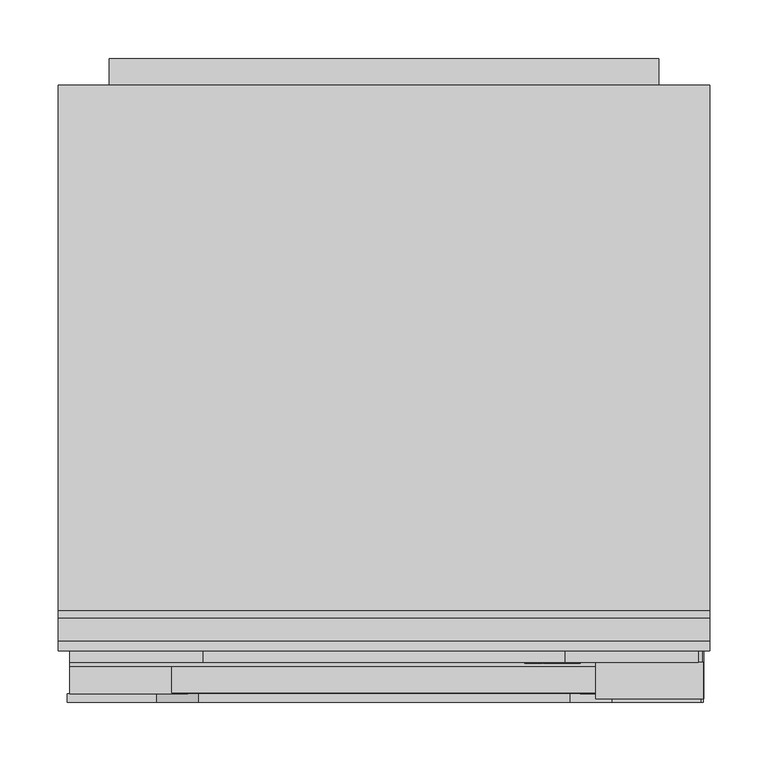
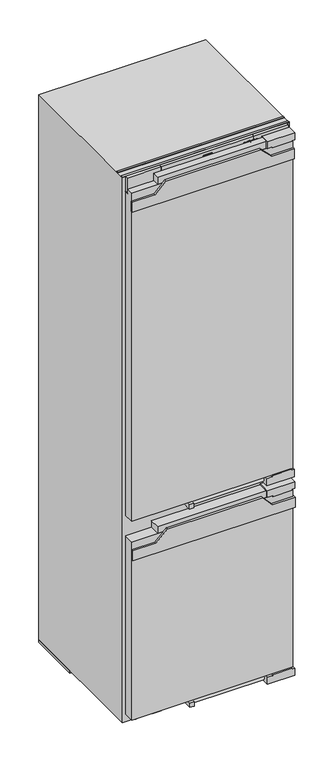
"""IFC4 building model written with IfcOpenShell, lengths in millimetres: proxy geometry, 12665240_EU1_KFN7844C : 38784400_EU1_12665240_KFN7844C."""

from ifc_helpers import new_model, si_unit, point, frame, frame_2d, origin, origin_with_axes, place, context, project, spatial, polyline, circle_curve, ellipse_curve, trimmed, segment, composite_curve, outline, extrude, faceted_brep, source, transform, mapped, element, save
from ifc_brep_helpers import plane_surface, cylinder_surface, revolved_surface, extruded_surface, advanced_brep


def specialty_equipment_554c32f7(model_context):
    return source(origin(), model_context, "Body", "SolidModel", [
        advanced_brep(
        [(162.7818, 33.0, 1920.3478), (162.7818, 33.0, 1921.1356), (168.0, 33.0, 1921.1356), (158.9208, 33.0, 1921.1356), (161.0658, 33.0, 1918.4992), (167.8674, 33.0, 1920.3478), (165.5118, 33.0, 1920.3478), (163.6554, 33.0, 1919.4742), (162.7818, 33.0, 1922.134), (162.7818, 33.0, 1922.9842), (164.1156, 33.0, 1922.9842), (164.1156, 33.0, 1922.134), (162.7818, 34.0, 1920.3478), (163.6554, 34.0, 1919.4742), (165.5118, 34.0, 1920.3478), (167.8674, 34.0, 1920.3478), (161.0658, 34.0, 1918.4992), (158.9208, 34.0, 1921.1356), (168.0, 34.0, 1921.1356), (162.7818, 34.0, 1921.1356), (162.7818, 34.0, 1922.134), (164.1156, 34.0, 1922.134), (164.1156, 34.0, 1922.9842), (162.7818, 34.0, 1922.9842)],
        [
            (0, 1),
            (1, 2),
            (2, 3, ellipse_curve(frame((163.4604, 33.0, 1921.1356), z_axis=(0.0, -1.0, 0.0), x_axis=(-1.0, 0.0, 0.0)), 4.5396, 3.7518)),
            (3, 4, circle_curve(frame((161.9394425, 33.0, 1921.4008), z_axis=(0.0, -1.0, 0.0), x_axis=(0.0, 0.0, -1.0)), 3.0302696)),
            (4, 5, circle_curve(frame((163.3695237, 33.0, 1923.46), z_axis=(0.0, -1.0, 0.0), x_axis=(0.0, 0.0, -1.0)), 5.4696142)),
            (5, 6),
            (6, 7, circle_curve(frame((164.0366824, 33.0, 1921.0732), z_axis=(0.0, 1.0, 0.0), x_axis=(0.0, 0.0, -1.0)), 1.64383)),
            (7, 0, circle_curve(frame((163.6554, 33.0, 1920.3478), z_axis=(0.0, 1.0, 0.0), x_axis=(0.0, 0.0, -1.0)), 0.8736)),
            (8, 9),
            (9, 10, circle_curve(frame((163.4487, 33.0, 1922.9842), z_axis=(0.0, 1.0, 0.0), x_axis=(0.0, 0.0, -1.0)), 0.6669)),
            (10, 11),
            (11, 8),
            (12, 13, circle_curve(frame((163.6554, 34.0, 1920.3478), z_axis=(0.0, -1.0, 0.0), x_axis=(0.0, 0.0, -1.0)), 0.8736)),
            (13, 14, circle_curve(frame((164.0366824, 34.0, 1921.0732), z_axis=(0.0, -1.0, 0.0), x_axis=(0.0, 0.0, -1.0)), 1.64383)),
            (14, 15),
            (15, 16, circle_curve(frame((163.3695237, 34.0, 1923.46), z_axis=(0.0, 1.0, 0.0), x_axis=(0.0, 0.0, -1.0)), 5.4696142)),
            (16, 17, circle_curve(frame((161.9394425, 34.0, 1921.4008), z_axis=(0.0, 1.0, 0.0), x_axis=(0.0, 0.0, -1.0)), 3.0302696)),
            (17, 18, ellipse_curve(frame((163.4604, 34.0, 1921.1356), z_axis=(0.0, 1.0, 0.0), x_axis=(-1.0, 0.0, 0.0)), 4.5396, 3.7518)),
            (18, 19),
            (19, 12),
            (20, 21),
            (21, 22),
            (22, 23, circle_curve(frame((163.4487, 34.0, 1922.9842), z_axis=(0.0, -1.0, 0.0), x_axis=(0.0, 0.0, -1.0)), 0.6669)),
            (23, 20),
            (0, 12),
            (19, 1),
            (18, 2),
            (5, 15),
            (14, 6),
            (17, 3),
            (13, 7),
            (16, 4),
            (8, 20),
            (23, 9),
            (22, 10),
            (21, 11),
        ],
        [
            plane_surface(frame((162.7818, 33.0, 1921.1356), z_axis=(0.0, -1.0, 0.0), x_axis=(0.0, 0.0, 1.0))),
            plane_surface(frame((162.7818, 34.0, 1921.1356), z_axis=(0.0, 1.0, 0.0), x_axis=(0.0, 0.0, -1.0))),
            plane_surface(frame((162.7818, 33.0, 1920.3478), z_axis=(1.0, 0.0, 0.0), x_axis=(0.0, 1.0, 0.0))),
            plane_surface(frame((162.7818, 33.0, 1921.1356), z_axis=(0.0, 0.0, -1.0), x_axis=(0.0, 1.0, 0.0))),
            plane_surface(frame((167.8674, 33.0, 1920.3478), z_axis=(0.0, 0.0, 1.0), x_axis=(0.0, 1.0, 0.0))),
            extruded_surface(trimmed(ellipse_curve(frame((163.4604, 35.0, 1921.1356), z_axis=(0.0, -1.0, 0.0), x_axis=(-1.0, 0.0, 0.0)), 4.5396, 3.7518), [point((168.0, 35.0, 1921.1356))], [point((158.9208, 35.0, 1921.1356))], True, "CARTESIAN"), (0.0, -1.0, 0.0), 1.0),
            revolved_surface(polyline([(164.0366824, 34.0, 1919.42937), (164.0366824, 33.0, 1919.42937)]), (164.0366824, 34.0, 1921.0732), (0.0, 1.0, 0.0)),
            revolved_surface(polyline([(163.6554, 34.0, 1919.4742), (163.6554, 33.0, 1919.4742)]), (163.6554, 34.0, 1920.3478), (0.0, 1.0, 0.0)),
            cylinder_surface(frame((161.9394425, 34.0, 1921.4008), z_axis=(0.0, -1.0, 0.0), x_axis=(0.0, 0.0, -1.0)), 3.0302696),
            cylinder_surface(frame((163.3695237, 34.0, 1923.46), z_axis=(0.0, -1.0, 0.0), x_axis=(0.0, 0.0, -1.0)), 5.4696142),
            plane_surface(frame((162.7818, 33.0, 1922.134), z_axis=(1.0, 0.0, 0.0), x_axis=(0.0, 1.0, 0.0))),
            revolved_surface(polyline([(163.4487, 34.0, 1922.3173000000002), (163.4487, 33.0, 1922.3173000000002)]), (163.4487, 34.0, 1922.9842), (0.0, 1.0, 0.0)),
            plane_surface(frame((164.1156, 33.0, 1922.9842), z_axis=(-1.0, 0.0, 0.0), x_axis=(0.0, 1.0, 0.0))),
            plane_surface(frame((164.1156, 33.0, 1922.134), z_axis=(0.0, 0.0, 1.0), x_axis=(0.0, 1.0, 0.0))),
        ],
        [
            (0, [[1, 2, 3, 4, 5, 6, 7, 8], [9, 10, 11, 12]]),
            (1, [[13, 14, 15, 16, 17, 18, 19, 20], [21, 22, 23, 24]]),
            (2, [[-1, 25, -20, 26]]),
            (3, [[-2, -26, -19, 27]]),
            (4, [[-6, 28, -15, 29]]),
            (5, [[-3, -27, -18, 30]]),
            (6, [[-7, -29, -14, 31]]),
            (7, [[-8, -31, -13, -25]]),
            (8, [[-4, -30, -17, 32]]),
            (9, [[-5, -32, -16, -28]]),
            (10, [[-9, 33, -24, 34]]),
            (11, [[-10, -34, -23, 35]]),
            (12, [[-11, -35, -22, 36]]),
            (13, [[-12, -36, -21, -33]]),
        ],
    ),
        advanced_brep(
        [(146.5032, 33.0, 1920.3478), (146.5032, 33.0, 1921.1356), (151.7214, 33.0, 1921.1356), (142.6422, 33.0, 1921.1356), (144.7872, 33.0, 1918.4992), (151.5888, 33.0, 1920.3478), (149.2332, 33.0, 1920.3478), (147.3768, 33.0, 1919.4742), (146.5032, 33.0, 1922.134), (146.5032, 33.0, 1922.9842), (147.837, 33.0, 1922.9842), (147.837, 33.0, 1922.134), (146.5032, 34.0, 1920.3478), (147.3768, 34.0, 1919.4742), (149.2332, 34.0, 1920.3478), (151.5888, 34.0, 1920.3478), (144.7872, 34.0, 1918.4992), (142.6422, 34.0, 1921.1356), (151.7214, 34.0, 1921.1356), (146.5032, 34.0, 1921.1356), (146.5032, 34.0, 1922.134), (147.837, 34.0, 1922.134), (147.837, 34.0, 1922.9842), (146.5032, 34.0, 1922.9842)],
        [
            (0, 1),
            (1, 2),
            (2, 3, ellipse_curve(frame((147.1818, 33.0, 1921.1356), z_axis=(0.0, -1.0, 0.0), x_axis=(-1.0, 0.0, 0.0)), 4.5396, 3.7518)),
            (3, 4, circle_curve(frame((145.6608425, 33.0, 1921.4008), z_axis=(0.0, -1.0, 0.0), x_axis=(0.0, 0.0, -1.0)), 3.0302696)),
            (4, 5, circle_curve(frame((147.0909237, 33.0, 1923.46), z_axis=(0.0, -1.0, 0.0), x_axis=(0.0, 0.0, -1.0)), 5.4696142)),
            (5, 6),
            (6, 7, circle_curve(frame((147.7580824, 33.0, 1921.0732), z_axis=(0.0, 1.0, 0.0), x_axis=(0.0, 0.0, -1.0)), 1.64383)),
            (7, 0, circle_curve(frame((147.3768, 33.0, 1920.3478), z_axis=(0.0, 1.0, 0.0), x_axis=(0.0, 0.0, -1.0)), 0.8736)),
            (8, 9),
            (9, 10, circle_curve(frame((147.1701, 33.0, 1922.9842), z_axis=(0.0, 1.0, 0.0), x_axis=(0.0, 0.0, -1.0)), 0.6669)),
            (10, 11),
            (11, 8),
            (12, 13, circle_curve(frame((147.3768, 34.0, 1920.3478), z_axis=(0.0, -1.0, 0.0), x_axis=(0.0, 0.0, -1.0)), 0.8736)),
            (13, 14, circle_curve(frame((147.7580824, 34.0, 1921.0732), z_axis=(0.0, -1.0, 0.0), x_axis=(0.0, 0.0, -1.0)), 1.64383)),
            (14, 15),
            (15, 16, circle_curve(frame((147.0909237, 34.0, 1923.46), z_axis=(0.0, 1.0, 0.0), x_axis=(0.0, 0.0, -1.0)), 5.4696142)),
            (16, 17, circle_curve(frame((145.6608425, 34.0, 1921.4008), z_axis=(0.0, 1.0, 0.0), x_axis=(0.0, 0.0, -1.0)), 3.0302696)),
            (17, 18, ellipse_curve(frame((147.1818, 34.0, 1921.1356), z_axis=(0.0, 1.0, 0.0), x_axis=(-1.0, 0.0, 0.0)), 4.5396, 3.7518)),
            (18, 19),
            (19, 12),
            (20, 21),
            (21, 22),
            (22, 23, circle_curve(frame((147.1701, 34.0, 1922.9842), z_axis=(0.0, -1.0, 0.0), x_axis=(0.0, 0.0, -1.0)), 0.6669)),
            (23, 20),
            (0, 12),
            (19, 1),
            (18, 2),
            (5, 15),
            (14, 6),
            (17, 3),
            (13, 7),
            (16, 4),
            (8, 20),
            (23, 9),
            (22, 10),
            (21, 11),
        ],
        [
            plane_surface(frame((146.5032, 33.0, 1921.1356), z_axis=(0.0, -1.0, 0.0), x_axis=(0.0, 0.0, 1.0))),
            plane_surface(frame((146.5032, 34.0, 1921.1356), z_axis=(0.0, 1.0, 0.0), x_axis=(0.0, 0.0, -1.0))),
            plane_surface(frame((146.5032, 33.0, 1920.3478), z_axis=(1.0, 0.0, 0.0), x_axis=(0.0, 1.0, 0.0))),
            plane_surface(frame((146.5032, 33.0, 1921.1356), z_axis=(0.0, 0.0, -1.0), x_axis=(0.0, 1.0, 0.0))),
            plane_surface(frame((151.5888, 33.0, 1920.3478), z_axis=(0.0, 0.0, 1.0), x_axis=(0.0, 1.0, 0.0))),
            extruded_surface(trimmed(ellipse_curve(frame((147.1818, 35.0, 1921.1356), z_axis=(0.0, -1.0, 0.0), x_axis=(-1.0, 0.0, 0.0)), 4.5396, 3.7518), [point((151.7214, 35.0, 1921.1356))], [point((142.6422, 35.0, 1921.1356))], True, "CARTESIAN"), (0.0, -1.0, 0.0), 1.0),
            revolved_surface(polyline([(147.7580824, 34.0, 1919.42937), (147.7580824, 33.0, 1919.42937)]), (147.7580824, 34.0, 1921.0732), (0.0, 1.0, 0.0)),
            revolved_surface(polyline([(147.3768, 34.0, 1919.4742), (147.3768, 33.0, 1919.4742)]), (147.3768, 34.0, 1920.3478), (0.0, 1.0, 0.0)),
            cylinder_surface(frame((145.6608425, 34.0, 1921.4008), z_axis=(0.0, -1.0, 0.0), x_axis=(0.0, 0.0, -1.0)), 3.0302696),
            cylinder_surface(frame((147.0909237, 34.0, 1923.46), z_axis=(0.0, -1.0, 0.0), x_axis=(0.0, 0.0, -1.0)), 5.4696142),
            plane_surface(frame((146.5032, 33.0, 1922.134), z_axis=(1.0, 0.0, 0.0), x_axis=(0.0, 1.0, 0.0))),
            revolved_surface(polyline([(147.1701, 34.0, 1922.3173000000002), (147.1701, 33.0, 1922.3173000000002)]), (147.1701, 34.0, 1922.9842), (0.0, 1.0, 0.0)),
            plane_surface(frame((147.837, 33.0, 1922.9842), z_axis=(-1.0, 0.0, 0.0), x_axis=(0.0, 1.0, 0.0))),
            plane_surface(frame((147.837, 33.0, 1922.134), z_axis=(0.0, 0.0, 1.0), x_axis=(0.0, 1.0, 0.0))),
        ],
        [
            (0, [[1, 2, 3, 4, 5, 6, 7, 8], [9, 10, 11, 12]]),
            (1, [[13, 14, 15, 16, 17, 18, 19, 20], [21, 22, 23, 24]]),
            (2, [[-1, 25, -20, 26]]),
            (3, [[-2, -26, -19, 27]]),
            (4, [[-6, 28, -15, 29]]),
            (5, [[-3, -27, -18, 30]]),
            (6, [[-7, -29, -14, 31]]),
            (7, [[-8, -31, -13, -25]]),
            (8, [[-4, -30, -17, 32]]),
            (9, [[-5, -32, -16, -28]]),
            (10, [[-9, 33, -24, 34]]),
            (11, [[-10, -34, -23, 35]]),
            (12, [[-11, -35, -22, 36]]),
            (13, [[-12, -36, -21, -33]]),
        ],
    ),
        extrude(outline(polyline([(1925.839, 137.9778), (1924.5754, 138.5706), (1925.8078, 141.2148), (1927.0714, 140.6298), (1925.839, 137.9778)])), frame((0.0, 33.0, 0.0), z_axis=(0.0, 1.0, 0.0), x_axis=(0.0, 0.0, 1.0)), (0.0, 0.0, 1.0), 1.0),
        extrude(outline(polyline([(1924.4038, 136.0512), (1923.0076, 136.0512), (1923.0076, 136.9794), (1919.8096, 136.9794), (1919.8096, 136.0512), (1918.4992, 136.0512), (1918.4992, 142.2054), (1919.8096, 142.2054), (1919.8096, 141.3006), (1924.4038, 141.3006), (1924.4038, 136.0512)])), frame((0.0, 33.0, 0.0), z_axis=(0.0, 1.0, 0.0), x_axis=(0.0, 0.0, 1.0)), (0.0, 0.0, 1.0), 1.0),
        extrude(outline(polyline([(1925.0278, 152.1582), (1925.0278, 153.0942), (1919.8096, 153.0942), (1919.8096, 152.1582), (1918.4992, 152.1582), (1918.4992, 158.484), (1919.8096, 158.484), (1919.8096, 157.5246), (1926.2992, 157.5246), (1926.2992, 152.1582), (1925.0278, 152.1582)])), frame((0.0, 33.0, 0.0), z_axis=(0.0, 1.0, 0.0), x_axis=(0.0, 0.0, 1.0)), (0.0, 0.0, 1.0), 1.0),
        extrude(outline(polyline([(1925.0278, 120.5058), (1925.0278, 121.4496), (1919.8096, 121.4496), (1919.8096, 120.5058), (1918.4992, 120.5058), (1918.4992, 123.9378), (1919.8096, 123.9378), (1919.8096, 123.0018), (1923.1289247, 123.0018), (1918.4992, 126.4884), (1923.1894223, 129.9906), (1919.8096, 129.9906), (1919.8096, 129.0312), (1918.4992, 129.0312), (1918.4992, 135.2556), (1919.8096, 135.2556), (1919.8096, 134.265), (1925.0278, 134.265), (1925.0278, 135.2556), (1926.2992, 135.2556), (1926.2992, 130.5054), (1923.3742, 128.2278), (1926.2992, 125.9424), (1926.2992, 120.5058), (1925.0278, 120.5058)])), frame((0.0, 33.0, 0.0), z_axis=(0.0, 1.0, 0.0), x_axis=(0.0, 0.0, 1.0)), (0.0, 0.0, 1.0), 1.0),
        extrude(outline(polyline([(-268.65, 44.0), (268.65, 44.0), (268.65, 7.0), (-268.65, 7.0), (-268.65, 44.0)])), frame((0.0, 0.0, 38.0), z_axis=(0.0, 0.0, 1.0), x_axis=(1.0, 0.0, 0.0)), (0.0, 0.0, 1.0), 629.0),
        extrude(outline(polyline([(1902.2953112, 263.2294749), (1902.2953112, 273.2294749), (1927.0, 273.2294749), (1927.0, 181.2294749), (1902.2953112, 181.2294749), (1902.2953112, 199.2294749), (1900.0, 199.2294749), (1900.0, 263.2294749), (1902.2953112, 263.2294749)])), frame((0.0, 3.0, 0.0), z_axis=(0.0, 1.0, 0.0), x_axis=(0.0, 0.0, 1.0)), (0.0, 0.0, 1.0), 31.0),
        extrude(outline(polyline([(693.8058281, 273.65), (693.8058281, 181.65), (669.8058281, 181.65), (669.8058281, 199.65), (666.8058281, 199.65), (666.8058281, 263.65), (669.8058281, 263.65), (669.8058281, 273.65), (693.8058281, 273.65)])), frame((0.0, 3.0, 0.0), z_axis=(0.0, 1.0, 0.0), x_axis=(0.0, 0.0, 1.0)), (0.0, 0.0, 1.0), 41.0),
        extrude(outline(polyline([(33.8058281, 199.65), (33.8058281, 181.65), (9.8058281, 181.65), (9.8058281, 273.65), (33.8058281, 273.65), (33.8058281, 263.65), (37.8058281, 263.65), (37.8058281, 199.65), (33.8058281, 199.65)])), frame((0.0, 3.0, 0.0), z_axis=(0.0, 1.0, 0.0), x_axis=(0.0, 0.0, 1.0)), (0.0, 0.0, 1.0), 41.0),
        extrude(outline(polyline([(-181.65, 44.0), (181.65, 44.0), (181.65, 8.0), (-181.65, 8.0), (-181.65, 44.0)])), frame((0.0, 0.0, 667.0), z_axis=(0.0, 0.0, 1.0), x_axis=(1.0, 0.0, 0.0)), (0.0, 0.0, 1.0), 23.0),
        extrude(outline(polyline([(7.0, 740.0), (7.0, 1900.0), (30.0, 1900.0), (30.0, 1885.0), (44.0, 1885.0), (44.0, 740.0), (7.0, 740.0)])), frame((-268.65, 0.0, 0.0), z_axis=(1.0, 0.0, 0.0), x_axis=(0.0, 1.0, 0.0)), (0.0, 0.0, 1.0), 537.3),
        extrude(outline(polyline([(181.65, 8.0), (-181.65, 8.0), (-181.65, 30.0), (181.65, 30.0), (181.65, 8.0)])), frame((0.0, 0.0, 1900.0), z_axis=(0.0, 0.0, 1.0), x_axis=(1.0, 0.0, 0.0)), (0.0, 0.0, 1.0), 26.0),
        extrude(outline(polyline([(737.0, 198.15), (737.0, 180.15), (712.0, 180.15), (712.0, 272.15), (737.0, 272.15), (737.0, 262.15), (741.0, 262.15), (741.0, 198.15), (737.0, 198.15)])), frame((0.0, 3.0, 0.0), z_axis=(0.0, 1.0, 0.0), x_axis=(0.0, 0.0, 1.0)), (0.0, 0.0, 1.0), 41.0),
        extrude(outline(polyline([(1837.0, 271.0), (1873.0, 271.0), (1873.0, 195.0), (1909.0, 159.0), (1909.0, -159.0), (1873.0, -195.0), (1873.0, -271.0), (1837.0, -271.0), (1837.0, 271.0)])), frame((0.0, 0.0, 0.0), z_axis=(0.0, 1.0, 0.0), x_axis=(0.0, 0.0, 1.0)), (0.0, 0.0, 1.0), 7.0),
        extrude(outline(polyline([(605.0, 273.15), (641.0, 273.15), (641.0, 197.15), (677.0, 164.15), (677.0, -153.85), (641.0, -192.85), (641.0, -268.85), (605.0, -268.85), (605.0, 273.15)])), frame((0.0, 0.0, 0.0), z_axis=(0.0, 1.0, 0.0), x_axis=(0.0, 0.0, 1.0)), (0.0, 0.0, 1.0), 7.0),
        extrude(outline(polyline([(-73.9870219, 42.0), (-58.9870219, 42.0), (-58.9870219, 8.0), (-73.9870219, 8.0), (-73.9870219, 42.0)])), frame((0.0, 0.0, 14.0005845), z_axis=(0.0, 0.0, 1.0), x_axis=(1.0, 0.0, 0.0)), (0.0, 0.0, 1.0), 15.0),
        extrude(outline(composite_curve([segment(trimmed(circle_curve(frame_2d((-65.4870219, 25.0)), 6.5), [point((-71.9870219, 25.0))], [point((-58.9870219, 25.0))], False, "CARTESIAN"), True, "CONTINUOUS"), segment(trimmed(circle_curve(frame_2d((-65.4870219, 25.0)), 6.5), [point((-58.9870219, 25.0))], [point((-71.9870219, 25.0))], False, "CARTESIAN"), True, "CONTINUOUS")], self_intersect=False)), frame((0.0, 0.0, 29.0005845), z_axis=(0.0, 0.0, 1.0), x_axis=(1.0, 0.0, 0.0)), (0.0, 0.0, 1.0), 9.0),
        extrude(outline(composite_curve([segment(trimmed(circle_curve(frame_2d((26.0, 23.0005845)), 9.0), [point((26.0, 14.0005845))], [point((26.0, 32.0005845))], False, "CARTESIAN"), True, "CONTINUOUS"), segment(trimmed(circle_curve(frame_2d((26.0, 23.0005845)), 9.0), [point((26.0, 32.0005845))], [point((26.0, 14.0005845))], False, "CARTESIAN"), True, "CONTINUOUS")], self_intersect=False)), frame((-58.9870219, 0.0, 0.0), z_axis=(1.0, 0.0, 0.0), x_axis=(0.0, 1.0, 0.0)), (0.0, 0.0, 1.0), 238.4870219),
        extrude(outline(polyline([(-75.4870219, 42.0), (-60.4870219, 42.0), (-60.4870219, 8.0), (-75.4870219, 8.0), (-75.4870219, 42.0)])), frame((0.0, 0.0, 715.5), z_axis=(0.0, 0.0, 1.0), x_axis=(1.0, 0.0, 0.0)), (0.0, 0.0, 1.0), 15.0),
        extrude(outline(composite_curve([segment(trimmed(circle_curve(frame_2d((-66.9870219, 25.0)), 6.5), [point((-73.4870219, 25.0))], [point((-60.4870219, 25.0))], False, "CARTESIAN"), True, "CONTINUOUS"), segment(trimmed(circle_curve(frame_2d((-66.9870219, 25.0)), 6.5), [point((-60.4870219, 25.0))], [point((-73.4870219, 25.0))], False, "CARTESIAN"), True, "CONTINUOUS")], self_intersect=False)), frame((0.0, 0.0, 730.5), z_axis=(0.0, 0.0, 1.0), x_axis=(1.0, 0.0, 0.0)), (0.0, 0.0, 1.0), 9.0),
        extrude(outline(composite_curve([segment(trimmed(circle_curve(frame_2d((26.0, 724.5)), 9.0), [point((26.0, 715.5))], [point((26.0, 733.5))], False, "CARTESIAN"), True, "CONTINUOUS"), segment(trimmed(circle_curve(frame_2d((26.0, 724.5)), 9.0), [point((26.0, 733.5))], [point((26.0, 715.5))], False, "CARTESIAN"), True, "CONTINUOUS")], self_intersect=False)), frame((-60.4870219, 0.0, 0.0), z_axis=(1.0, 0.0, 0.0), x_axis=(0.0, 1.0, 0.0)), (0.0, 0.0, 1.0), 238.4870219),
        extrude(outline(polyline([(-15.0, 35.0), (15.0, 35.0), (15.0, 34.0), (-15.0, 34.0), (-15.0, 35.0)])), frame((0.0, 0.0, 1898.0), z_axis=(0.0, 0.0, 1.0), x_axis=(1.0, 0.0, 0.0)), (0.0, 0.0, 1.0), 30.0),
        extrude(outline(polyline([(-269.0, 44.0), (-155.0, 44.0), (-155.0, 34.0), (-269.0, 34.0), (-269.0, 44.0)])), frame((0.0, 0.0, 1888.0), z_axis=(0.0, 0.0, 1.0), x_axis=(1.0, 0.0, 0.0)), (0.0, 0.0, 1.0), 49.0),
        extrude(outline(polyline([(155.0, 44.0), (269.0, 44.0), (269.0, 34.0), (155.0, 34.0), (155.0, 44.0)])), frame((0.0, 0.0, 1888.0), z_axis=(0.0, 0.0, 1.0), x_axis=(1.0, 0.0, 0.0)), (0.0, 0.0, 1.0), 49.0),
        faceted_brep([(155.0, 34.0, 1937.0), (-155.0, 34.0, 1937.0), (-155.0, 34.0, 1888.0), (155.0, 34.0, 1888.0), (15.0, 34.0, 1928.0), (15.0, 34.0, 1898.0), (-15.0, 34.0, 1898.0), (-15.0, 34.0, 1928.0), (155.0, 44.0, 1937.0), (155.0, 44.0, 1888.0), (-155.0, 44.0, 1888.0), (-155.0, 44.0, 1937.0), (15.0, 35.0, 1928.0), (-15.0, 35.0, 1928.0), (-15.0, 35.0, 1898.0), (15.0, 35.0, 1898.0)], [[[0, 1, 2, 3], [4, 5, 6, 7]], [[8, 9, 10, 11]], [[0, 3, 9, 8]], [[3, 2, 10, 9]], [[2, 1, 11, 10]], [[1, 0, 8, 11]], [[12, 13, 14, 15]], [[12, 15, 5, 4]], [[15, 14, 6, 5]], [[14, 13, 7, 6]], [[13, 12, 4, 7]]]),
        faceted_brep([(278.5, 528.0, 1935.0), (-278.5, 528.0, 1935.0), (-278.5, 44.0, 1935.0), (278.5, 44.0, 1935.0), (278.5, 528.0, 10.0), (278.5, 44.0, 10.0), (-278.5, 44.0, 10.0), (-278.5, 528.0, 10.0), (242.5, 44.0, 1860.0), (242.5, 44.0, 765.0), (-242.5, 44.0, 765.0), (-242.5, 44.0, 1860.0), (217.5, 44.0, 633.0), (217.5, 44.0, 93.0), (-217.5, 44.0, 93.0), (-217.5, 44.0, 633.0), (242.5, 490.0, 1860.0), (-242.5, 490.0, 1860.0), (-242.5, 490.0, 765.0), (242.5, 490.0, 765.0), (217.5, 451.0, 633.0), (217.5, 451.0, 93.0), (-217.5, 451.0, 633.0), (-217.5, 451.0, 93.0)], [[[0, 1, 2, 3]], [[4, 5, 6, 7]], [[1, 0, 4, 7]], [[2, 1, 7, 6]], [[3, 2, 6, 5], [8, 9, 10, 11], [12, 13, 14, 15]], [[0, 3, 5, 4]], [[16, 17, 18, 19]], [[16, 19, 9, 8]], [[19, 18, 10, 9]], [[18, 17, 11, 10]], [[17, 16, 8, 11]], [[20, 21, 13, 12]], [[22, 15, 14, 23]], [[21, 20, 22, 23]], [[13, 21, 23, 14]], [[20, 12, 15, 22]]]),
        extrude(outline(composite_curve([segment(trimmed(circle_curve(frame_2d((228.0, 64.0)), 11.0), [point((239.0, 64.0))], [point((217.0, 64.0))], False, "CARTESIAN"), True, "CONTINUOUS"), segment(trimmed(circle_curve(frame_2d((228.0, 64.0)), 11.0), [point((217.0, 64.0))], [point((239.0, 64.0))], False, "CARTESIAN"), True, "CONTINUOUS")], self_intersect=False)), origin_with_axes(), (0.0, 0.0, 1.0), 10.0),
        extrude(outline(composite_curve([segment(trimmed(circle_curve(frame_2d((-228.0, 64.0)), 11.0), [point((-217.0, 64.0))], [point((-239.0, 64.0))], False, "CARTESIAN"), True, "CONTINUOUS"), segment(trimmed(circle_curve(frame_2d((-228.0, 64.0)), 11.0), [point((-239.0, 64.0))], [point((-217.0, 64.0))], False, "CARTESIAN"), True, "CONTINUOUS")], self_intersect=False)), origin_with_axes(), (0.0, 0.0, 1.0), 10.0),
        extrude(outline(polyline([(-217.5, 350.0), (-217.5, 451.0), (217.5, 451.0), (217.5, 350.0), (-217.5, 350.0)])), frame((0.0, 0.0, 93.0), z_axis=(0.0, 0.0, 1.0), x_axis=(1.0, 0.0, 0.0)), (0.0, 0.0, 1.0), 140.0),
        extrude(outline(polyline([(-242.5, 44.0), (-242.5, 490.0), (242.5, 490.0), (242.5, 44.0), (-242.5, 44.0)])), frame((0.0, 0.0, 1142.0), z_axis=(0.0, 0.0, 1.0), x_axis=(1.0, 0.0, 0.0)), (0.0, 0.0, 1.0), 3.0),
        extrude(outline(polyline([(278.5, 52.0), (278.5, 44.0), (-278.5, 44.0), (-278.5, 52.0), (278.5, 52.0)])), frame((0.0, 0.0, 1935.0), z_axis=(0.0, 0.0, 1.0), x_axis=(1.0, 0.0, 0.0)), (0.0, 0.0, 1.0), 3.0),
        extrude(outline(polyline([(278.5, 78.0), (278.5, 72.0), (-278.5, 72.0), (-278.5, 78.0), (278.5, 78.0)])), frame((0.0, 0.0, 1935.0), z_axis=(0.0, 0.0, 1.0), x_axis=(1.0, 0.0, 0.0)), (0.0, 0.0, 1.0), 3.0),
        extrude(outline(polyline([(-34.0, 44.0), (34.0, 44.0), (34.0, 35.0), (-34.0, 35.0), (-34.0, 44.0)])), frame((0.0, 0.0, 13.0), z_axis=(0.0, 0.0, 1.0), x_axis=(1.0, 0.0, 0.0)), (0.0, 0.0, 1.0), 19.0),
        advanced_brep(
        [(232.0, 528.0, 145.0), (217.0, 528.0, 145.0), (232.0, 549.5, 145.0), (217.0, 534.5, 145.0), (194.5, 549.5, 145.0), (194.5, 534.5, 145.0)],
        [
            (0, 1, circle_curve(frame((224.5, 528.0, 145.0), z_axis=(0.0, -1.0, 0.0), x_axis=(-1.0, 0.0, 0.0)), 7.5)),
            (1, 0, circle_curve(frame((224.5, 528.0, 145.0), z_axis=(0.0, -1.0, 0.0), x_axis=(-1.0, 0.0, 0.0)), 7.5)),
            (0, 2),
            (2, 3, ellipse_curve(frame((224.5, 542.0, 145.0), z_axis=(0.7071067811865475, -0.7071067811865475, 0.0), x_axis=(-0.7071067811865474, -0.7071067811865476, 0.0)), 10.6066017, 7.5)),
            (3, 1),
            (3, 2, ellipse_curve(frame((224.5, 542.0, 145.0), z_axis=(0.7071067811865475, -0.7071067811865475, 0.0), x_axis=(-0.7071067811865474, -0.7071067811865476, 0.0)), 10.6066017, 7.5)),
            (4, 5, circle_curve(frame((194.5, 542.0, 145.0), z_axis=(-1.0, 0.0, 0.0), x_axis=(0.0, -1.0, 0.0)), 7.5)),
            (5, 4, circle_curve(frame((194.5, 542.0, 145.0), z_axis=(-1.0, 0.0, 0.0), x_axis=(0.0, -1.0, 0.0)), 7.5)),
            (2, 4),
            (5, 3),
        ],
        [
            plane_surface(frame((224.5, 528.0, 145.0), z_axis=(0.0, -1.0, 0.0), x_axis=(0.0, 0.0, 1.0))),
            cylinder_surface(frame((224.5, 528.0, 145.0), z_axis=(0.0, -1.0, 0.0), x_axis=(-1.0, 0.0, 0.0)), 7.5),
            plane_surface(frame((194.5, 542.0, 145.0), z_axis=(-1.0, 0.0, 0.0), x_axis=(0.0, 0.0, 1.0))),
            cylinder_surface(frame((224.5, 542.0, 145.0), z_axis=(1.0, 0.0, 0.0), x_axis=(0.0, -1.0, 0.0)), 7.5),
        ],
        [
            (0, [[1, 2]]),
            (1, [[-1, 3, 4, 5]]),
            (1, [[-2, -5, 6, -3]]),
            (2, [[7, 8]]),
            (3, [[-4, 9, -8, 10]]),
            (3, [[-6, -10, -7, -9]]),
        ],
    ),
        extrude(outline(polyline([(541.4384039, 149.874164), (548.6647626, 149.874164), (548.6647626, 139.824714), (541.2826236, 139.824714), (541.2826236, 141.0836119), (547.4056247, 141.0836119), (547.4056247, 144.3750411), (541.7614845, 144.3750411), (541.7614845, 145.6249589), (547.4056247, 145.6249589), (547.4056247, 148.6148402), (541.4384039, 148.6148402), (541.4384039, 149.874164)])), frame((193.5, 0.0, 0.0), z_axis=(1.0, 0.0, 0.0), x_axis=(0.0, 1.0, 0.0)), (0.0, 0.0, 1.0), 1.0),
        extrude(outline(polyline([(538.1383052, 149.8716162), (539.399354, 149.8716162), (539.399354, 139.824714), (533.1225656, 139.824714), (533.1225656, 141.0927041), (538.1383052, 141.0927041), (538.1383052, 149.8716162)])), frame((193.5, 0.0, 0.0), z_axis=(1.0, 0.0, 0.0), x_axis=(0.0, 1.0, 0.0)), (0.0, 0.0, 1.0), 1.0),
        extrude(outline(polyline([(-144.929185, 52.0), (-174.0, 52.0), (-194.6983363, 348.0), (-165.6275213, 348.0), (-144.929185, 52.0)])), origin_with_axes(), (0.0, 0.0, 1.0), 10.0),
        extrude(outline(polyline([(144.929185, 52.0), (165.6275213, 348.0), (194.6983363, 348.0), (174.0, 52.0), (144.929185, 52.0)])), origin_with_axes(), (0.0, 0.0, 1.0), 10.0),
        extrude(outline(polyline([(1651.5, -235.0), (27.0, -235.0), (27.0, 235.0), (130.0, 235.0), (130.0, 180.0), (160.0, 180.0), (160.0, 235.0), (1651.5, 235.0), (1651.5, -235.0)])), frame((0.0, 528.0, 0.0), z_axis=(0.0, 1.0, 0.0), x_axis=(0.0, 0.0, 1.0)), (0.0, 0.0, 1.0), 23.0),
        extrude(outline(polyline([(278.5, 528.0), (278.5, 348.0), (-278.5, 348.0), (-278.5, 528.0), (278.5, 528.0)])), origin_with_axes(), (0.0, 0.0, 1.0), 10.0),
    ])


if __name__ == "__main__":
    model = new_model("IFC4")
    model_context = context("Model", 3, world=origin())
    ifc_project = project(units=[si_unit("LENGTHUNIT", "METRE", prefix="MILLI")], contexts=[model_context])
    site = spatial("IfcSite", under=ifc_project)
    building = spatial("IfcBuilding", under=site)
    placement = place(None, origin())
    specialty_equipment_shape = specialty_equipment_554c32f7(model_context)
    element("IfcBuildingElementProxy", 1, Name="12665240_EU1_KFN7844C : 38784400_EU1_12665240_KFN7844C", ObjectType="12665240_EU1_KFN7844C : 38784400_EU1_12665240_KFN7844C", at=placement, inside=building, context=model_context, shape_type="MappedRepresentation", body=[
        mapped(specialty_equipment_shape, transform((0.0, 0.0, 0.0), x_axis=(1.0, 0.0, 0.0), y_axis=(0.0, 1.0, 0.0), z_axis=(0.0, 0.0, 1.0))),
    ])
    save(model, "model.ifc")
